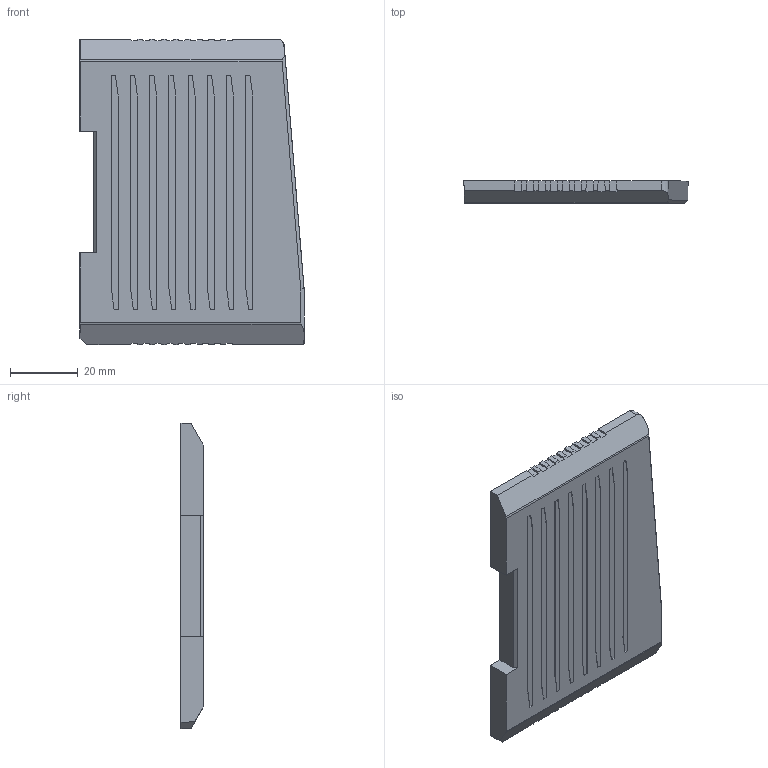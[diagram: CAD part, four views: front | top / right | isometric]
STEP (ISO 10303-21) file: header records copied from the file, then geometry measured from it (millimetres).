
FILE_DESCRIPTION(/* description */ (''),/* implementation_level */ '2;1');
FILE_NAME(/* name */ 'EX-终端模块.stp',/* time_stamp */ '2022-01-17T14:49:33+08:00',/* author */ (''),/* organization */ (''),/* preprocessor_version */ 'ST-DEVELOPER v16',/* originating_system */ 'SIEMENS PLM Software NX 10.0',/* authorisation */ '');
FILE_SCHEMA (('AP203_CONFIGURATION_CONTROLLED_3D_DESIGN_OF_MECHANICAL_PARTS_AND_ASSEMBLIES_MIM_LF { 1 0 10303 403 2 1 2}'));
Length unit declared in the file: millimetre
Products named in the file (1): 73494B50E7E6tzu9
Bounding box: 66 x 6.5 x 90 mm (x, y, z)
Volume: 34450.3 mm3; surface area: 12884.2 mm2
Topology: 1 solids, 1 shells, 149 faces, 416 edges, 277 vertices
Faces by surface type: plane 147, cone 2
Entity records: 4780 total; most frequent: CARTESIAN_POINT 849, ORIENTED_EDGE 832, DIRECTION 718, EDGE_CURVE 416, LINE 410, VECTOR 410, VERTEX_POINT 277, EDGE_LOOP 157
